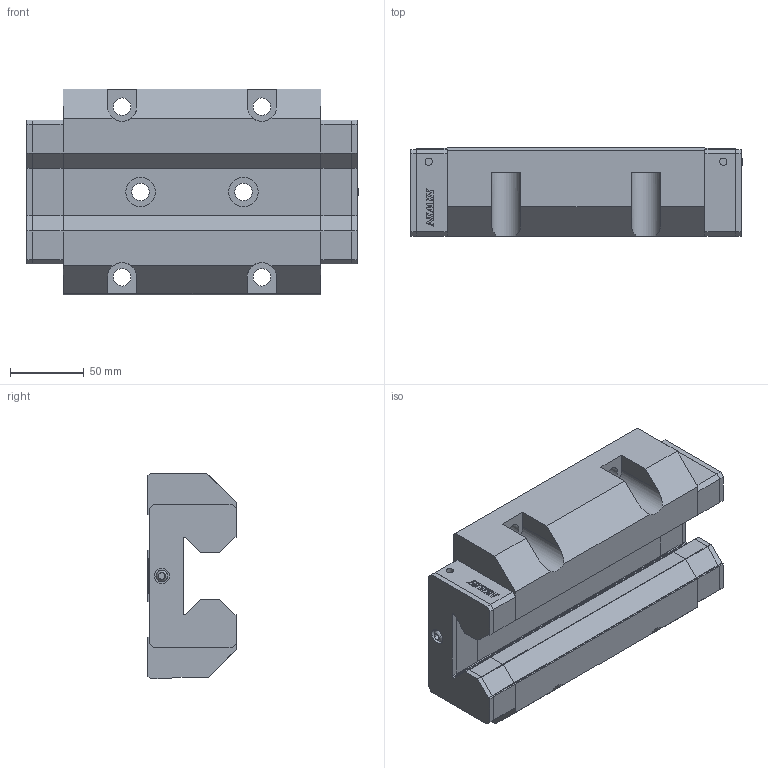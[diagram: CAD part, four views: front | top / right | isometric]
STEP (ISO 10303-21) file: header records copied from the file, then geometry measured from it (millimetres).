
FILE_DESCRIPTION(/* description */ (''),/* implementation_level */ '2;1');
FILE_NAME(/* name */ 'URW55HCZAH_GW202603049639.stp',/* time_stamp */ '2026-03-30T23:03:35+08:00',/* author */ ('user'),/* organization */ (''),/* preprocessor_version */ 'ST-DEVELOPER v20.1',/* originating_system */ 'Autodesk Inventor 2026',/* authorisation */ '');
FILE_SCHEMA (('AUTOMOTIVE_DESIGN { 1 0 10303 214 3 1 1 }'));
Products named in the file (3): URW55HCZAH_GW202603049639; URW55H_左封; 31010069
Assembly tree (3 placements, depth 2):
  URW55HCZAH_GW202603049639
    URW55H_左封
    31010069  x2
Bounding box: 225.7 x 60 x 140 mm (x, y, z)
Volume: 1281442.3 mm3; surface area: 158700.9 mm2
Topology: 7 solids, 7 shells, 534 faces, 1476 edges, 982 vertices
Faces by surface type: plane 392, cylinder 140, bspline 2
Full cylindrical faces by diameter (mm): 1.5 x2, 4.917 x4, 6 x2, 6.5 x2, 8 x2, 10.3 x2, 10.5 x2, 11.835 x6, 20 x2
Entity records: 16793 total; most frequent: CARTESIAN_POINT 2968, ORIENTED_EDGE 2900, DIRECTION 2788, EDGE_CURVE 1450, LINE 1164, VECTOR 1164, VERTEX_POINT 965, AXIS2_PLACEMENT_3D 812
